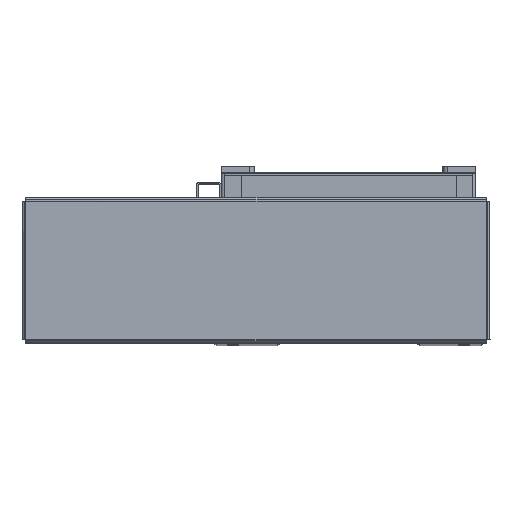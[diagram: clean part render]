
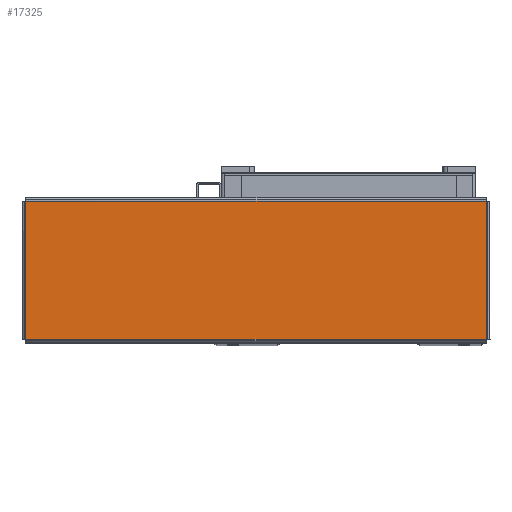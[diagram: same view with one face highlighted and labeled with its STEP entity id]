
A CAD part, top view. The second image highlights one B-rep face of the part: STEP entity #17325.
In plain terms, the highlighted planar face has unit normal (0, 0, 1) as drawn and (0, -1, 0) by its records, which use the part's own axes.
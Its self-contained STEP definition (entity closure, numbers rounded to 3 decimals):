
#2327 = ORIENTED_EDGE ( 'NONE', *, *, #6284, .T. ) ;
#2351 = ORIENTED_EDGE ( 'NONE', *, *, #6285, .T. ) ;
#2369 = ORIENTED_EDGE ( 'NONE', *, *, #6290, .T. ) ;
#2370 = ORIENTED_EDGE ( 'NONE', *, *, #6259, .T. ) ;
#6259 = EDGE_CURVE ( 'NONE', #28460, #28470, #32332, .T. ) ;
#6284 = EDGE_CURVE ( 'NONE', #28437, #28460, #32403, .T. ) ;
#6285 = EDGE_CURVE ( 'NONE', #28470, #28423, #32397, .T. ) ;
#6290 = EDGE_CURVE ( 'NONE', #28423, #28437, #32382, .T. ) ;
#10503 = EDGE_LOOP ( 'NONE', ( #2327, #2370, #2351, #2369 ) ) ;
#17325 = ADVANCED_FACE ( 'NONE', ( #18026 ), #19213, .F. ) ;
#18026 = FACE_OUTER_BOUND ( 'NONE', #10503, .T. ) ;
#19207 = CARTESIAN_POINT ( 'NONE',  ( 0., -1.5, 0. ) ) ;
#19213 = PLANE ( 'NONE',  #20110 ) ;
#19222 = DIRECTION ( 'NONE',  ( 0., 1., 0. ) ) ;
#19263 = DIRECTION ( 'NONE',  ( 0., 0., 1. ) ) ;
#20110 = AXIS2_PLACEMENT_3D ( 'NONE', #19207, #19222, #19263 ) ;
#23649 = CARTESIAN_POINT ( 'NONE',  ( 139.293, -1.5, 41.763 ) ) ;
#23650 = DIRECTION ( 'NONE',  ( -1., 0., 0. ) ) ;
#28423 = VERTEX_POINT ( 'NONE', #34013 ) ;
#28437 = VERTEX_POINT ( 'NONE', #33993 ) ;
#28460 = VERTEX_POINT ( 'NONE', #34008 ) ;
#28470 = VERTEX_POINT ( 'NONE', #34060 ) ;
#32332 = LINE ( 'NONE', #23649, #32334 ) ;
#32334 = VECTOR ( 'NONE', #23650, 1000. ) ;
#32357 = VECTOR ( 'NONE', #44102, 1000. ) ;
#32382 = LINE ( 'NONE', #43444, #32357 ) ;
#32397 = LINE ( 'NONE', #40089, #32398 ) ;
#32398 = VECTOR ( 'NONE', #40092, 1000. ) ;
#32403 = LINE ( 'NONE', #40088, #32406 ) ;
#32406 = VECTOR ( 'NONE', #40086, 1000. ) ;
#33993 = CARTESIAN_POINT ( 'NONE',  ( 139.263, -1.5, -41.763 ) ) ;
#34008 = CARTESIAN_POINT ( 'NONE',  ( 139.263, -1.5, 41.763 ) ) ;
#34013 = CARTESIAN_POINT ( 'NONE',  ( -139.263, -1.5, -41.763 ) ) ;
#34060 = CARTESIAN_POINT ( 'NONE',  ( -139.263, -1.5, 41.763 ) ) ;
#40086 = DIRECTION ( 'NONE',  ( 0., 0., 1. ) ) ;
#40088 = CARTESIAN_POINT ( 'NONE',  ( 139.263, -1.5, -41.793 ) ) ;
#40089 = CARTESIAN_POINT ( 'NONE',  ( -139.263, -1.5, 41.793 ) ) ;
#40092 = DIRECTION ( 'NONE',  ( 0., 0., -1. ) ) ;
#43444 = CARTESIAN_POINT ( 'NONE',  ( -139.293, -1.5, -41.763 ) ) ;
#44102 = DIRECTION ( 'NONE',  ( 1., 0., 0. ) ) ;
